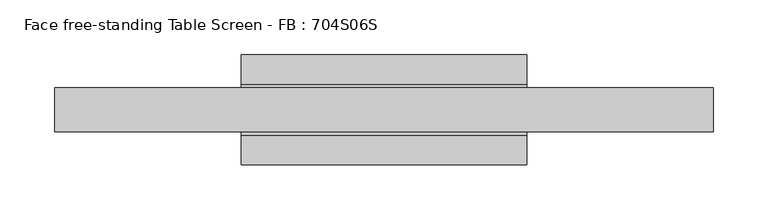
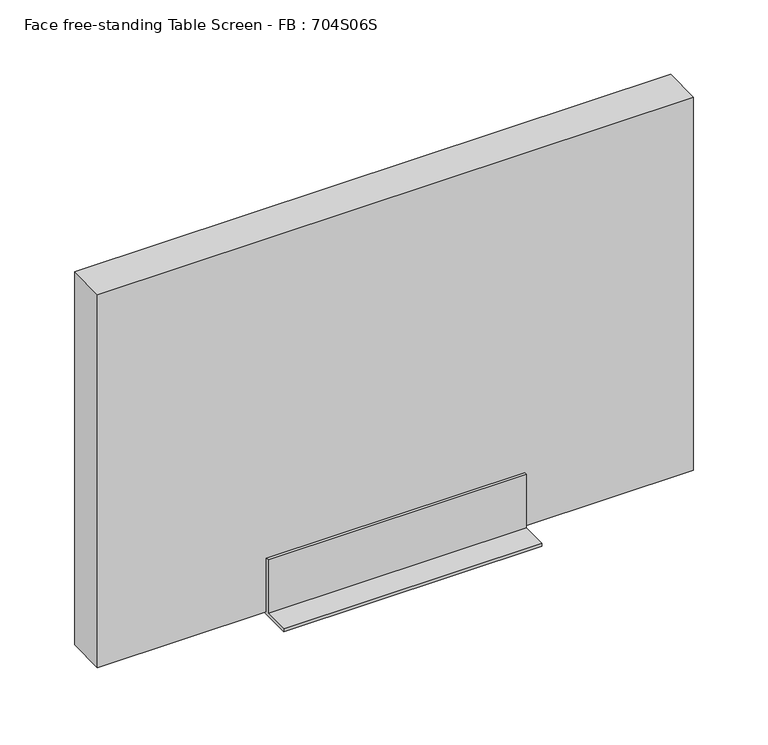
"""IFC4 building model written with IfcOpenShell, lengths in millimetres: furniture geometry, Face free-standing Table Screen - FB : 704S06S."""

import ifcopenshell
import ifcopenshell.guid

model = None  # the IFC model being written
_history = None  # IfcOwnerHistory: only IFC2X3 demands one
_inside = {}  # id of a spatial element -> (the spatial element, [elements in it])
_under = {}  # id of a project, library or spatial element -> (it, [spatial elements below it])
_declared = {}  # id of a project -> (the project, [libraries it declares])
_typed = {}  # id of a type object -> (the type object, [elements of that type])
_made_of = {}  # id of a material, layer set ... -> (it, [elements and type objects made of it])


def new_model(schema):
    """Start an empty IFC model of exactly this schema.

    Asked for "IFC4X3", IfcOpenShell would pick the latest addendum, in which some entities
    have other attributes; the version numbers below select the first issue.
    IFC2X3 requires an IfcOwnerHistory on every rooted entity: one is made here for all.
    """
    global model, _history
    if schema == "IFC4X3":
        model = ifcopenshell.file(schema_version=(4, 3, 0, 0))
    else:
        model = ifcopenshell.file(schema=schema)
    _inside.clear()
    _under.clear()
    _declared.clear()
    _typed.clear()
    _made_of.clear()
    _history = None
    if model.schema == "IFC2X3":
        org = make("IfcOrganization", Name="unknown")
        user = make(
            "IfcPersonAndOrganization",
            ThePerson=make("IfcPerson", FamilyName="unknown"),
            TheOrganization=org,
        )
        app = make(
            "IfcApplication",
            ApplicationDeveloper=org,
            Version="unknown",
            ApplicationFullName="unknown",
            ApplicationIdentifier="unknown",
        )
        _history = make(
            "IfcOwnerHistory",
            OwningUser=user,
            OwningApplication=app,
            ChangeAction="ADDED",
            CreationDate=0,
        )
    return model


def make(cls, **values):
    """One entity of the class cls with the attributes given. An attribute that is None is left unset."""
    return model.create_entity(
        cls, **{name: value for name, value in values.items() if value is not None}
    )


def rooted(cls, **values):
    """An entity with a GlobalId (a new one), such as an element, a storey or a relation."""
    return make(cls, GlobalId=ifcopenshell.guid.new(), OwnerHistory=_history, **values)


def si_unit(unit_type, name, prefix=None):
    """IfcSIUnit, for example si_unit("LENGTHUNIT", "METRE", prefix="MILLI")."""
    return make("IfcSIUnit", UnitType=unit_type, Prefix=prefix, Name=name)


def assignment(units):
    """IfcUnitAssignment: the units of a project."""
    return None if units is None else make("IfcUnitAssignment", Units=units)


def point(xyz):
    """IfcCartesianPoint."""
    return None if xyz is None else make("IfcCartesianPoint", Coordinates=xyz)


def direction(xyz):
    """IfcDirection."""
    return None if xyz is None else make("IfcDirection", DirectionRatios=xyz)


def frame(location, z_axis=None, x_axis=None):
    """IfcAxis2Placement3D, a coordinate frame: its origin and axes. An axis left out is left unset."""
    return make(
        "IfcAxis2Placement3D",
        Location=point(location),
        Axis=direction(z_axis),
        RefDirection=direction(x_axis),
    )


def origin():
    """The frame at (0, 0, 0) with its axes left unset."""
    return frame((0.0, 0.0, 0.0))


def place(relative_to, where):
    """IfcLocalPlacement: puts the frame where relative to a parent placement (None: the world)."""
    return make(
        "IfcLocalPlacement", PlacementRelTo=relative_to, RelativePlacement=where
    )


def context(
    kind, dimensions, precision=None, world=None, true_north=None, identifier=None
):
    """IfcGeometricRepresentationContext, for example the 3D "Model" context."""
    return make(
        "IfcGeometricRepresentationContext",
        ContextIdentifier=identifier,
        ContextType=kind,
        CoordinateSpaceDimension=dimensions,
        Precision=precision,
        WorldCoordinateSystem=world,
        TrueNorth=true_north,
    )


def project(units=None, contexts=None):
    """IfcProject with its units and contexts."""
    return rooted(
        "IfcProject",
        Name="project",
        RepresentationContexts=contexts,
        UnitsInContext=assignment(units),
    )


def spatial(cls, under=None, at=None, **own):
    """A site, building, storey or space (cls), placed at a placement, below another one or the project."""
    s = rooted(cls, ObjectPlacement=at, **own)
    if under is not None:
        _under.setdefault(under.id(), (under, []))[1].append(s)
    return s


def polyline(points):
    """IfcPolyline through the points."""
    return make("IfcPolyline", Points=[point(p) for p in points])


def outline(outer, holes=None, kind="AREA"):
    """IfcArbitraryClosedProfileDef: a profile drawn as a closed curve; with holes, ...WithVoids."""
    if holes is None:
        return make("IfcArbitraryClosedProfileDef", ProfileType=kind, OuterCurve=outer)
    return make(
        "IfcArbitraryProfileDefWithVoids",
        ProfileType=kind,
        OuterCurve=outer,
        InnerCurves=holes,
    )


def extrude(swept, where, along, depth):
    """IfcExtrudedAreaSolid: the profile swept, set in the frame where, extruded along a direction by depth."""
    return make(
        "IfcExtrudedAreaSolid",
        SweptArea=swept,
        Position=where,
        ExtrudedDirection=direction(along),
        Depth=depth,
    )


def shape(context_of_items, identifier, shape_type, items):
    """IfcShapeRepresentation: the items that make up one representation, for example the "Body"."""
    return make(
        "IfcShapeRepresentation",
        ContextOfItems=context_of_items,
        RepresentationIdentifier=identifier,
        RepresentationType=shape_type,
        Items=items,
    )


def source(mapping_origin, context_of_items, identifier, shape_type, items):
    """IfcRepresentationMap: a shape defined once, which mapped items show again and again."""
    return make(
        "IfcRepresentationMap",
        MappingOrigin=mapping_origin,
        MappedRepresentation=shape(context_of_items, identifier, shape_type, items),
    )


def transform(
    local_origin,
    x_axis=None,
    y_axis=None,
    z_axis=None,
    scale=None,
    scale2=None,
    scale3=None,
    uniform=True,
):
    """IfcCartesianTransformationOperator3D, or its non-uniform kind. x_axis, y_axis, z_axis: its Axis1, 2, 3."""
    if uniform:
        return make(
            "IfcCartesianTransformationOperator3D",
            Axis1=direction(x_axis),
            Axis2=direction(y_axis),
            LocalOrigin=point(local_origin),
            Scale=scale,
            Axis3=direction(z_axis),
        )
    return make(
        "IfcCartesianTransformationOperator3DnonUniform",
        Axis1=direction(x_axis),
        Axis2=direction(y_axis),
        LocalOrigin=point(local_origin),
        Scale=scale,
        Axis3=direction(z_axis),
        Scale2=scale2,
        Scale3=scale3,
    )


def mapped(mapping_source, mapping_target):
    """IfcMappedItem: shows the shape of a source again, moved by a transform."""
    return make(
        "IfcMappedItem", MappingSource=mapping_source, MappingTarget=mapping_target
    )


def made_of(thing, what):
    """Note that an element or type object is made of a material, layer set ...; save() writes the relation."""
    if what is not None:
        _made_of.setdefault(what.id(), (what, []))[1].append(thing)
    return thing


def element(
    cls,
    number,
    at=None,
    inside=None,
    cuts=None,
    type_object=None,
    material=None,
    context=None,
    identifier="Body",
    shape_type=None,
    held_by="IfcProductDefinitionShape",
    body=None,
    shapes=None,
    **own,
):
    """One element of the class cls, such as IfcWall. Its Tag is "e" and its number.

    at: its placement. inside: the storey or other place that contains it. cuts: it is an
    opening in that element (IfcRelVoidsElement). A single representation is given by context,
    identifier, shape_type and body (its items); several are given by shapes. held_by: the class
    of the entity that holds the representations. save() writes the other relations.
    """
    e = rooted(cls, Tag="e%d" % number, ObjectPlacement=at, **own)
    if body is not None:
        shapes = [shape(context, identifier, shape_type, body)]
    if shapes is not None:
        e.Representation = make(held_by, Representations=shapes)
    if inside is not None:
        _inside.setdefault(inside.id(), (inside, []))[1].append(e)
    if cuts is not None:
        rooted(
            "IfcRelVoidsElement", RelatingBuildingElement=cuts, RelatedOpeningElement=e
        )
    if type_object is not None:
        _typed.setdefault(type_object.id(), (type_object, []))[1].append(e)
    return made_of(e, material)


def aggregate(whole, parts):
    """IfcRelAggregates: a whole, such as a stair, and the parts it consists of."""
    return rooted("IfcRelAggregates", RelatingObject=whole, RelatedObjects=parts)


def save(model, path):
    """Write the relations noted so far, then the file.

    IfcRelAggregates (storeys below a building ...), IfcRelContainedInSpatialStructure (elements
    in a storey), IfcRelDefinesByType, IfcRelAssociatesMaterial and IfcRelDeclares: one each for
    every whole, place, type object, material and project.
    """
    for whole, parts in _under.values():
        aggregate(whole, parts)
    for where, things in _inside.values():
        rooted(
            "IfcRelContainedInSpatialStructure",
            RelatedElements=things,
            RelatingStructure=where,
        )
    for kind, things in _typed.values():
        rooted("IfcRelDefinesByType", RelatedObjects=things, RelatingType=kind)
    for what, things in _made_of.values():
        rooted("IfcRelAssociatesMaterial", RelatedObjects=things, RelatingMaterial=what)
    for by, libraries in _declared.values():
        rooted("IfcRelDeclares", RelatingContext=by, RelatedDefinitions=libraries)
    model.write(path)


def face_free_standing_table_screen_fb_704s06s_1d66ae4d(model_context):
    return source(origin(), model_context, "Body", "SweptSolid", [
        extrude(outline(polyline([(-50.0, 3.0), (-22.999995, 3.0), (-23.0, 60.0), (-20.0, 60.0), (-20.0, 3.0), (20.0, 3.0), (20.0, 60.0), (23.0, 60.0), (22.999995, 3.0), (50.0, 3.0), (50.0, 0.0), (-50.0, 0.0), (-50.0, 3.0)])), frame((-130.0, 0.0, 0.0), z_axis=(1.0, 0.0, 0.0), x_axis=(0.0, 1.0, 0.0)), (0.0, 0.0, 1.0), 260.0),
        extrude(outline(polyline([(300.0, -20.0), (-300.0, -20.0), (-300.0, 20.0), (300.0, 20.0), (300.0, -20.0)])), frame((0.0, 0.0, 3.0), z_axis=(0.0, 0.0, 1.0), x_axis=(1.0, 0.0, 0.0)), (0.0, 0.0, 1.0), 397.0),
    ])


if __name__ == "__main__":
    model = new_model("IFC4")
    model_context = context("Model", 3, world=origin())
    ifc_project = project(units=[si_unit("LENGTHUNIT", "METRE", prefix="MILLI")], contexts=[model_context])
    site = spatial("IfcSite", under=ifc_project)
    building = spatial("IfcBuilding", under=site)
    placement = place(None, origin())
    face_free_standing_table_screen_fb_704s06s_shape = face_free_standing_table_screen_fb_704s06s_1d66ae4d(model_context)
    element("IfcFurniture", 1, ObjectType="Face free-standing Table Screen - FB : 704S06S", at=placement, inside=building, context=model_context, shape_type="MappedRepresentation", body=[
        mapped(face_free_standing_table_screen_fb_704s06s_shape, transform((0.0, 0.0, 0.0), x_axis=(1.0, 0.0, 0.0), y_axis=(0.0, 1.0, 0.0), z_axis=(0.0, 0.0, 1.0))),
    ])
    save(model, "model.ifc")
